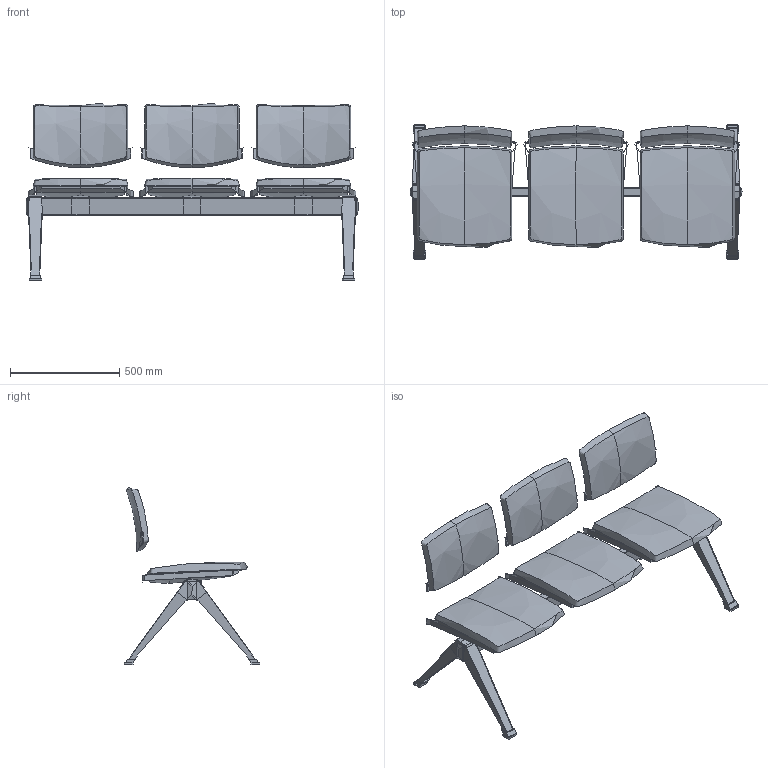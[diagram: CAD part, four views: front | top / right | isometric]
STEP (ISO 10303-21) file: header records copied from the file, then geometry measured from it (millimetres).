
FILE_DESCRIPTION(/* description */ (''),/* implementation_level */ '2;1');
FILE_NAME(/* name */ 'Seance 099-3',/* time_stamp */ '2020-03-26T13:55:44+01:00',/* author */ (''),/* organization */ (''),/* preprocessor_version */ 'ST-DEVELOPER v16.5',/* originating_system */ '',/* authorisation */ '');
FILE_SCHEMA (('AUTOMOTIVE_DESIGN'));
Length unit declared in the file: millimetre
Products named in the file (1): Document
Bounding box: 1520 x 620 x 812.42 mm (x, y, z)
Volume: 37892913.9 mm3; surface area: 4215949.1 mm2
Topology: 38 solids, 46 shells, 468 faces, 1111 edges, 709 vertices
Faces by surface type: bspline 246, plane 222
Entity records: 19277 total; most frequent: CARTESIAN_POINT 12015, ORIENTED_EDGE 2084, EDGE_CURVE 1086, B_SPLINE_CURVE_WITH_KNOTS 899, VERTEX_POINT 697, ADVANCED_FACE 468, FACE_OUTER_BOUND 468, EDGE_LOOP 468
